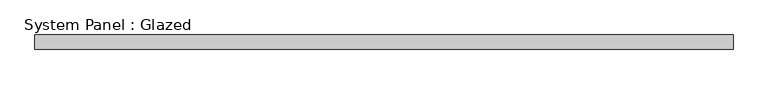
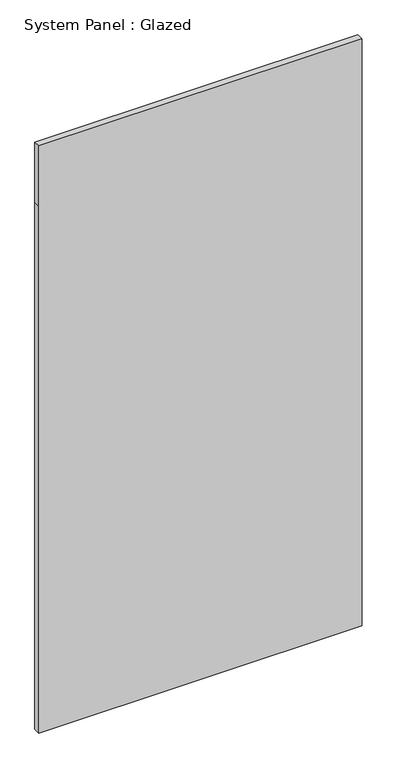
"""IFC4 building model written with IfcOpenShell, lengths in millimetres: plate geometry, System Panel : Glazed."""

from ifc_helpers import new_model, si_unit, frame, origin, place, context, project, spatial, polyline, outline, extrude, source, transform, mapped, element, save


def system_panel_glazed_b962cb7b(model_context):
    return source(origin(), model_context, "Body", "SweptSolid", [
        extrude(outline(polyline([(0.0, -610.2825643), (0.0, 610.2825643), (2101.85, 610.2825643), (2343.15, 610.2825643), (2343.15, -610.2825643), (2101.85, -610.2825643), (0.0, -610.2825643)])), frame((0.0, 19.05, 0.0), z_axis=(0.0, 1.0, 0.0), x_axis=(0.0, 0.0, 1.0)), (0.0, 0.0, 1.0), 25.4),
    ])


if __name__ == "__main__":
    model = new_model("IFC4")
    model_context = context("Model", 3, world=origin())
    ifc_project = project(units=[si_unit("LENGTHUNIT", "METRE", prefix="MILLI")], contexts=[model_context])
    site = spatial("IfcSite", under=ifc_project)
    building = spatial("IfcBuilding", under=site)
    placement = place(None, origin())
    system_panel_glazed_shape = system_panel_glazed_b962cb7b(model_context)
    element("IfcPlate", 1, ObjectType="System Panel : Glazed", at=placement, inside=building, context=model_context, shape_type="MappedRepresentation", body=[
        mapped(system_panel_glazed_shape, transform((0.0, 0.0, 0.0), x_axis=(1.0, 0.0, 0.0), y_axis=(0.0, 1.0, 0.0), z_axis=(0.0, 0.0, 1.0))),
    ])
    save(model, "model.ifc")
